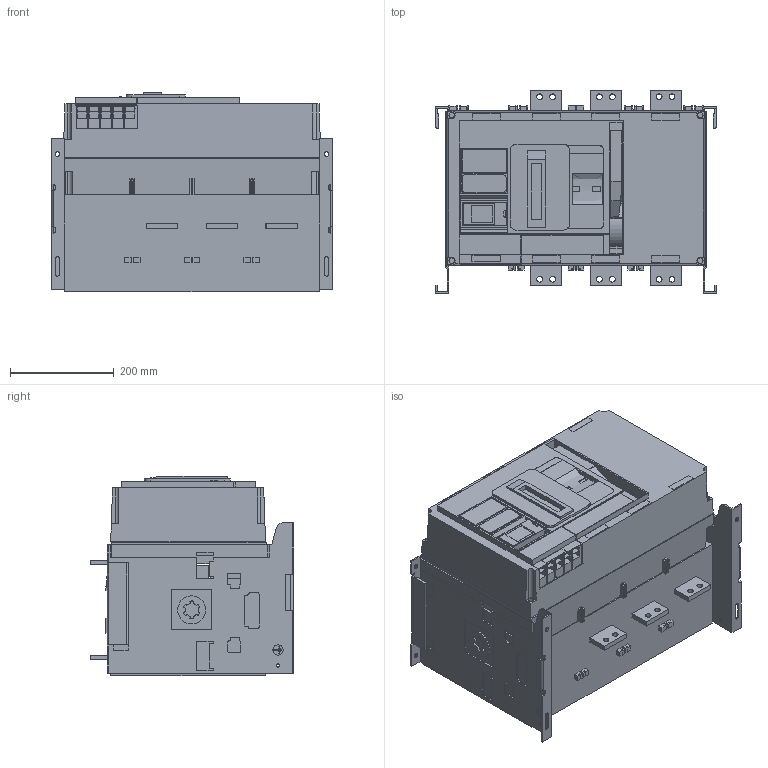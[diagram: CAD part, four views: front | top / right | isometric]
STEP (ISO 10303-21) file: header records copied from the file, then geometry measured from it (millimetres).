
FILE_DESCRIPTION((''),'2;1');
FILE_NAME('TA1AD3L16H4TPE_3D-SIMPLIFIED_ASM','2024-07-04T12:13:12',('SESA540900'),('Schneider-Electric'),'CREO PARAMETRIC BY PTC INC, 2021284','CREO PARAMETRIC BY PTC INC, 2021284','');
FILE_SCHEMA(('AP242_MANAGED_MODEL_BASED_3D_ENGINEERING_MIM_LF { 1 0 10303 442 1 1 4 }'));
Length unit declared in the file: millimetre
Products named in the file (2): PRT0001; TA1AD3L16H4TPE_3D-SIMPLIFIED_ASM
Assembly tree (1 placements, depth 2):
  TA1AD3L16H4TPE_3D-SIMPLIFIED_ASM
    PRT0001
Bounding box: 540 x 391 x 383.5 mm (x, y, z)
Volume: 53184449.6 mm3; surface area: 1867439.4 mm2
Topology: 1 solids, 2 shells, 1230 faces, 3484 edges, 2352 vertices
Faces by surface type: plane 934, cylinder 273, extrusion 23
Entity records: 51639 total; most frequent: CARTESIAN_POINT 7705, ORIENTED_EDGE 6968, DIRECTION 6555, EDGE_CURVE 3484, VECTOR 2767, LINE 2744, VERTEX_POINT 2352, AXIS2_PLACEMENT_3D 1894
